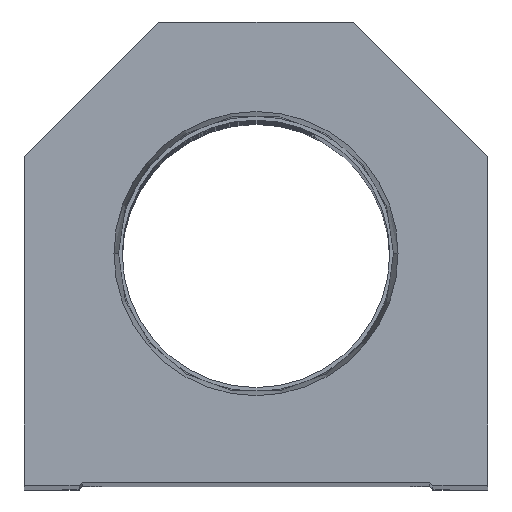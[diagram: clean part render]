
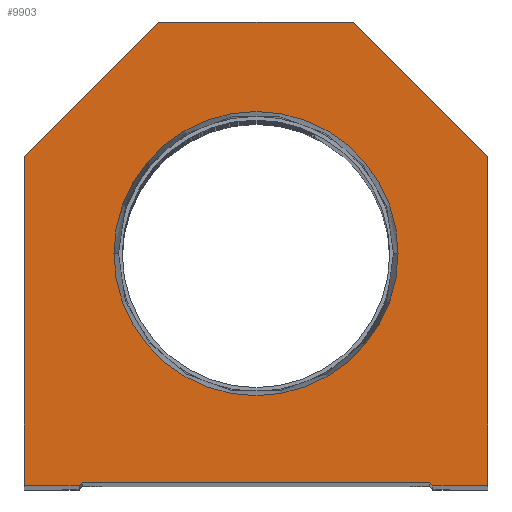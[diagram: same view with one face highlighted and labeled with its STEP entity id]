
A CAD part, top view. The second image highlights one B-rep face of the part: STEP entity #9903.
In plain terms, the highlighted planar face has unit normal (0, 0, 1).
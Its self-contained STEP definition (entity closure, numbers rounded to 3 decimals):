
#242 = ORIENTED_EDGE ( 'NONE', *, *, #12229, .T. ) ;
#576 = LINE ( 'NONE', #11249, #23339 ) ;
#943 = VERTEX_POINT ( 'NONE', #12699 ) ;
#979 = VERTEX_POINT ( 'NONE', #14789 ) ;
#1702 = CARTESIAN_POINT ( 'NONE',  ( -28.6, 0., 0. ) ) ;
#1785 = CARTESIAN_POINT ( 'NONE',  ( 38.1, 54.1, 0. ) ) ;
#1835 = PLANE ( 'NONE',  #3749 ) ;
#1965 = DIRECTION ( 'NONE',  ( 0., 0., 1. ) ) ;
#2442 = VERTEX_POINT ( 'NONE', #10115 ) ;
#2569 = VECTOR ( 'NONE', #12606, 1000. ) ;
#2861 = CARTESIAN_POINT ( 'NONE',  ( -29.1, 0., 0. ) ) ;
#3040 = CARTESIAN_POINT ( 'NONE',  ( 0., 38.1, 0. ) ) ;
#3433 = ORIENTED_EDGE ( 'NONE', *, *, #8021, .T. ) ;
#3749 = AXIS2_PLACEMENT_3D ( 'NONE', #18171, #1965, #20604 ) ;
#3855 = VECTOR ( 'NONE', #4757, 1000. ) ;
#4119 = DIRECTION ( 'NONE',  ( 1., 0., 0. ) ) ;
#4391 = EDGE_CURVE ( 'NONE', #13028, #20933, #16762, .T. ) ;
#4468 = CARTESIAN_POINT ( 'NONE',  ( 28.6, 0., 0. ) ) ;
#4484 = VECTOR ( 'NONE', #12475, 1000. ) ;
#4600 = CARTESIAN_POINT ( 'NONE',  ( 0., 38.1, 0. ) ) ;
#4658 = ORIENTED_EDGE ( 'NONE', *, *, #4391, .T. ) ;
#4757 = DIRECTION ( 'NONE',  ( 0., -1., 0. ) ) ;
#4886 = VERTEX_POINT ( 'NONE', #7840 ) ;
#5100 = ORIENTED_EDGE ( 'NONE', *, *, #13793, .T. ) ;
#5244 = CARTESIAN_POINT ( 'NONE',  ( -14.55, 14.55, 0. ) ) ;
#5389 = EDGE_CURVE ( 'NONE', #17866, #10700, #8862, .T. ) ;
#5611 = LINE ( 'NONE', #1785, #2569 ) ;
#5747 = LINE ( 'NONE', #12615, #13508 ) ;
#5916 = EDGE_LOOP ( 'NONE', ( #242, #3433, #22715, #13114, #4658, #9393, #5100, #17466, #21060, #17277 ) ) ;
#6125 = DIRECTION ( 'NONE',  ( -1., 0., 0. ) ) ;
#6529 = CARTESIAN_POINT ( 'NONE',  ( -23.374, 38.1, 0. ) ) ;
#6802 = VECTOR ( 'NONE', #7459, 1000. ) ;
#6897 = EDGE_CURVE ( 'NONE', #10700, #17866, #7396, .T. ) ;
#6917 = VERTEX_POINT ( 'NONE', #10169 ) ;
#7396 = CIRCLE ( 'NONE', #22086, 23.374 ) ;
#7459 = DIRECTION ( 'NONE',  ( -0.707, -0.707, 0. ) ) ;
#7840 = CARTESIAN_POINT ( 'NONE',  ( -38.1, 54.1, 0. ) ) ;
#8021 = EDGE_CURVE ( 'NONE', #21707, #6917, #14221, .T. ) ;
#8159 = EDGE_CURVE ( 'NONE', #20933, #10730, #576, .T. ) ;
#8275 = CARTESIAN_POINT ( 'NONE',  ( 38.1, 0., 0. ) ) ;
#8390 = LINE ( 'NONE', #19090, #13193 ) ;
#8533 = DIRECTION ( 'NONE',  ( 0., 0., 1. ) ) ;
#8862 = CIRCLE ( 'NONE', #14101, 23.374 ) ;
#8907 = CARTESIAN_POINT ( 'NONE',  ( 38.1, 54.1, 0. ) ) ;
#9378 = CARTESIAN_POINT ( 'NONE',  ( -28.6, 0.5, 0. ) ) ;
#9393 = ORIENTED_EDGE ( 'NONE', *, *, #8159, .T. ) ;
#9903 = ADVANCED_FACE ( 'NONE', ( #17078, #21949 ), #1835, .T. ) ;
#9908 = CARTESIAN_POINT ( 'NONE',  ( -38.1, 54.1, 0. ) ) ;
#9926 = EDGE_CURVE ( 'NONE', #979, #4886, #16522, .T. ) ;
#10115 = CARTESIAN_POINT ( 'NONE',  ( -38.1, 0., 0. ) ) ;
#10169 = CARTESIAN_POINT ( 'NONE',  ( -28.6, 0.5, 0. ) ) ;
#10461 = CARTESIAN_POINT ( 'NONE',  ( -38.1, 0., 0. ) ) ;
#10700 = VERTEX_POINT ( 'NONE', #6529 ) ;
#10730 = VERTEX_POINT ( 'NONE', #8907 ) ;
#11249 = CARTESIAN_POINT ( 'NONE',  ( 38.1, 0., 0. ) ) ;
#12229 = EDGE_CURVE ( 'NONE', #2442, #21707, #16160, .T. ) ;
#12378 = EDGE_LOOP ( 'NONE', ( #20819, #13086 ) ) ;
#12475 = DIRECTION ( 'NONE',  ( 0.707, 0.707, 0. ) ) ;
#12534 = DIRECTION ( 'NONE',  ( 1., 0., 0. ) ) ;
#12606 = DIRECTION ( 'NONE',  ( -0.707, 0.707, 0. ) ) ;
#12615 = CARTESIAN_POINT ( 'NONE',  ( 14.55, 14.55, 0. ) ) ;
#12699 = CARTESIAN_POINT ( 'NONE',  ( 28.6, 0.5, 0. ) ) ;
#13010 = LINE ( 'NONE', #9378, #16074 ) ;
#13028 = VERTEX_POINT ( 'NONE', #13888 ) ;
#13086 = ORIENTED_EDGE ( 'NONE', *, *, #6897, .F. ) ;
#13114 = ORIENTED_EDGE ( 'NONE', *, *, #21569, .T. ) ;
#13193 = VECTOR ( 'NONE', #6125, 1000. ) ;
#13508 = VECTOR ( 'NONE', #16259, 1000. ) ;
#13746 = LINE ( 'NONE', #10461, #3855 ) ;
#13793 = EDGE_CURVE ( 'NONE', #10730, #16888, #5611, .T. ) ;
#13888 = CARTESIAN_POINT ( 'NONE',  ( 29.1, 0., 0. ) ) ;
#14101 = AXIS2_PLACEMENT_3D ( 'NONE', #3040, #8533, #12534 ) ;
#14221 = LINE ( 'NONE', #5244, #4484 ) ;
#14357 = EDGE_CURVE ( 'NONE', #16888, #979, #8390, .T. ) ;
#14789 = CARTESIAN_POINT ( 'NONE',  ( -16., 76.2, 0. ) ) ;
#15142 = DIRECTION ( 'NONE',  ( 0., 1., 0. ) ) ;
#15220 = DIRECTION ( 'NONE',  ( 0., 0., 1. ) ) ;
#16074 = VECTOR ( 'NONE', #21856, 1000. ) ;
#16160 = LINE ( 'NONE', #1702, #21609 ) ;
#16259 = DIRECTION ( 'NONE',  ( 0.707, -0.707, 0. ) ) ;
#16522 = LINE ( 'NONE', #9908, #6802 ) ;
#16762 = LINE ( 'NONE', #4468, #19343 ) ;
#16885 = DIRECTION ( 'NONE',  ( 1., 0., 0. ) ) ;
#16888 = VERTEX_POINT ( 'NONE', #20344 ) ;
#16890 = CARTESIAN_POINT ( 'NONE',  ( 23.374, 38.1, 0. ) ) ;
#17000 = EDGE_CURVE ( 'NONE', #4886, #2442, #13746, .T. ) ;
#17078 = FACE_BOUND ( 'NONE', #12378, .T. ) ;
#17277 = ORIENTED_EDGE ( 'NONE', *, *, #17000, .T. ) ;
#17466 = ORIENTED_EDGE ( 'NONE', *, *, #14357, .T. ) ;
#17866 = VERTEX_POINT ( 'NONE', #16890 ) ;
#18171 = CARTESIAN_POINT ( 'NONE',  ( 0., 0., 0. ) ) ;
#19090 = CARTESIAN_POINT ( 'NONE',  ( 16., 76.2, 0. ) ) ;
#19111 = EDGE_CURVE ( 'NONE', #6917, #943, #13010, .T. ) ;
#19343 = VECTOR ( 'NONE', #4119, 1000. ) ;
#20344 = CARTESIAN_POINT ( 'NONE',  ( 16., 76.2, 0. ) ) ;
#20604 = DIRECTION ( 'NONE',  ( 1., 0., 0. ) ) ;
#20819 = ORIENTED_EDGE ( 'NONE', *, *, #5389, .F. ) ;
#20933 = VERTEX_POINT ( 'NONE', #8275 ) ;
#21060 = ORIENTED_EDGE ( 'NONE', *, *, #9926, .T. ) ;
#21569 = EDGE_CURVE ( 'NONE', #943, #13028, #5747, .T. ) ;
#21609 = VECTOR ( 'NONE', #23338, 1000. ) ;
#21707 = VERTEX_POINT ( 'NONE', #2861 ) ;
#21856 = DIRECTION ( 'NONE',  ( 1., 0., 0. ) ) ;
#21949 = FACE_OUTER_BOUND ( 'NONE', #5916, .T. ) ;
#22086 = AXIS2_PLACEMENT_3D ( 'NONE', #4600, #15220, #16885 ) ;
#22715 = ORIENTED_EDGE ( 'NONE', *, *, #19111, .T. ) ;
#23338 = DIRECTION ( 'NONE',  ( 1., 0., 0. ) ) ;
#23339 = VECTOR ( 'NONE', #15142, 1000. ) ;
